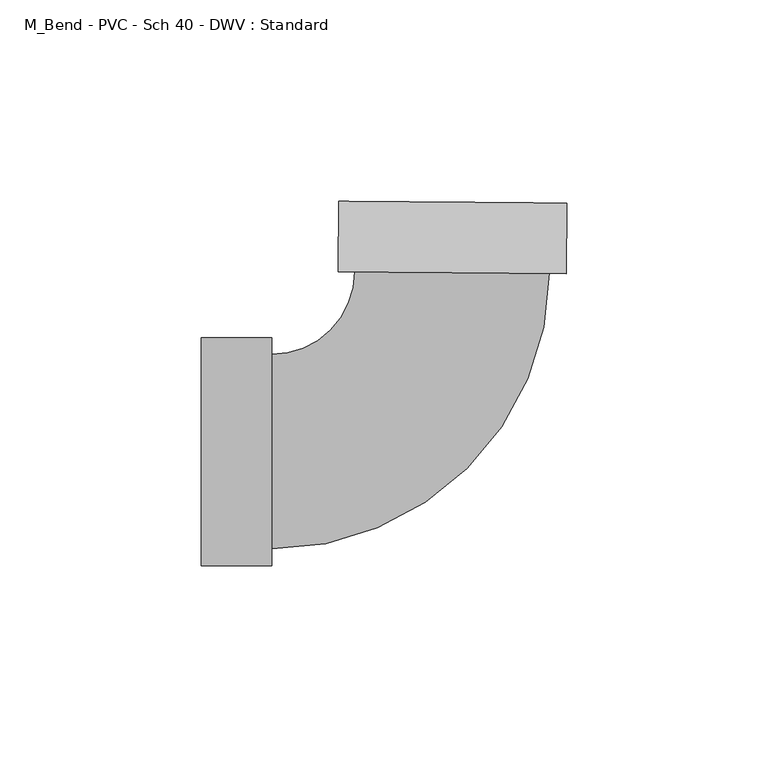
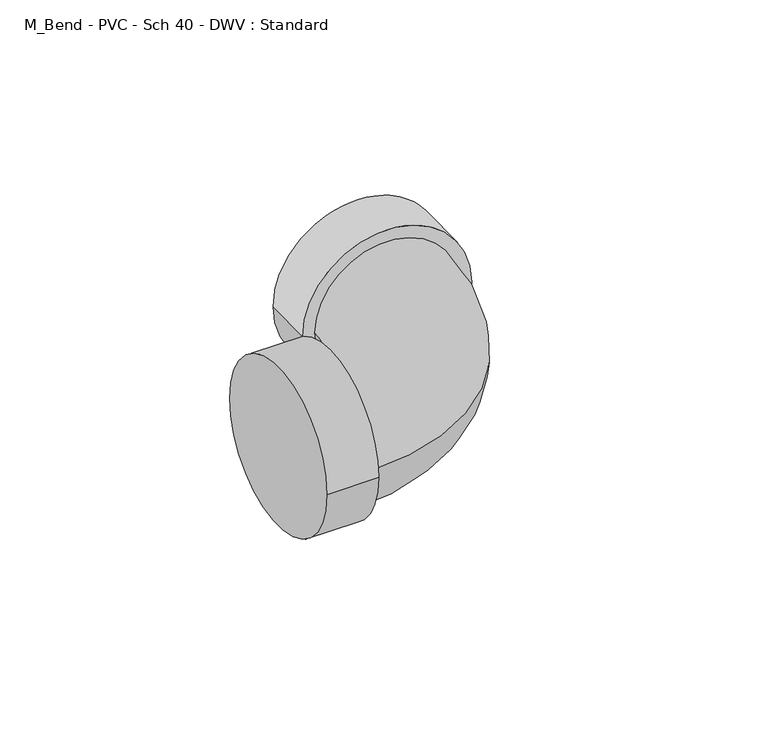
"""IFC4 building model written with IfcOpenShell, lengths in millimetres: pipe fitting geometry, M_Bend - PVC - Sch 40 - DWV : Standard."""

from ifc_helpers import new_model, si_unit, point, frame, origin, place, context, project, spatial, circle_curve, ellipse_curve, trimmed, source, transform, mapped, element, save
from ifc_brep_helpers import plane_surface, cylinder_surface, revolved_surface, advanced_brep


def m_bend_pvc_sch_40_dwv_standard_aab78995(model_context):
    return source(origin(), model_context, "Body", "AdvancedBrep", [
        advanced_brep(
        [(-61.8998, -28.2829, 0.0), (-61.8998, 28.2829, 0.0), (-44.45, -28.2829, 0.0), (-44.45, 28.2829, 0.0), (-44.45, -24.13, 0.0), (-44.45, 24.13, 0.0), (-23.7768974, 44.6398763, 0.0), (24.4815864, 44.2573308, 0.0), (28.634356, 44.2244117, 0.0), (-27.9296669, 44.6727953, 0.0), (28.7726764, 61.6736635, 0.0), (-27.7913465, 62.1220471, 0.0)],
        [
            (0, 1, circle_curve(frame((-61.8998, 0.0, 0.0), z_axis=(-1.0, 0.0, 0.0), x_axis=(0.0, 1.0, 0.0)), 28.2829)),
            (1, 0, circle_curve(frame((-61.8998, 0.0, 0.0), z_axis=(-1.0, 0.0, 0.0), x_axis=(0.0, 1.0, 0.0)), 28.2829)),
            (2, 3, circle_curve(frame((-44.45, 0.0, 0.0), z_axis=(1.0, 0.0, 0.0), x_axis=(0.0, 1.0, 0.0)), 28.2829)),
            (3, 2, circle_curve(frame((-44.45, 0.0, 0.0), z_axis=(1.0, 0.0, 0.0), x_axis=(0.0, 1.0, 0.0)), 28.2829)),
            (4, 5, circle_curve(frame((-44.45, 0.0, 0.0), z_axis=(-1.0, 0.0, 0.0), x_axis=(0.0, 1.0, 0.0)), 24.13)),
            (5, 4, circle_curve(frame((-44.45, 0.0, 0.0), z_axis=(-1.0, 0.0, 0.0), x_axis=(0.0, 1.0, 0.0)), 24.13)),
            (0, 2),
            (3, 1),
            (6, 5, circle_curve(frame((-44.45, 44.8037521, 0.0), z_axis=(0.0, 0.0, -1.0), x_axis=(0.0, -1.0, 0.0)), 20.6737521)),
            (4, 7, circle_curve(frame((-44.45, 44.8037521, 0.0), z_axis=(0.0, 0.0, 1.0), x_axis=(0.0, -1.0, 0.0)), 68.9337521)),
            (7, 6, circle_curve(frame((0.3523445, 44.4486035, 0.0), z_axis=(-0.007926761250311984, -0.9999685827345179, 0.0), x_axis=(-0.9999685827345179, 0.007926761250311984, 0.0)), 24.13)),
            (6, 7, circle_curve(frame((0.3523445, 44.4486035, 0.0), z_axis=(-0.007926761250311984, -0.9999685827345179, 0.0), x_axis=(-0.9999685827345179, 0.007926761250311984, 0.0)), 24.13)),
            (8, 9, circle_curve(frame((0.3523445, 44.4486035, 0.0), z_axis=(-0.007926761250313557, -0.999968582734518, 0.0), x_axis=(-0.999968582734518, 0.007926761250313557, 0.0)), 28.2829)),
            (9, 8, circle_curve(frame((0.3523445, 44.4486035, 0.0), z_axis=(-0.007926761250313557, -0.999968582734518, 0.0), x_axis=(-0.999968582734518, 0.007926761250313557, 0.0)), 28.2829)),
            (10, 11, circle_curve(frame((0.4906649, 61.8978553, 0.0), z_axis=(0.007926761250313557, 0.999968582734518, 0.0), x_axis=(-0.999968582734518, 0.007926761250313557, 0.0)), 28.2829)),
            (11, 10, circle_curve(frame((0.4906649, 61.8978553, 0.0), z_axis=(0.007926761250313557, 0.999968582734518, 0.0), x_axis=(-0.999968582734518, 0.007926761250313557, 0.0)), 28.2829)),
            (8, 10),
            (11, 9),
        ],
        [
            plane_surface(frame((-61.8998, 0.0, 0.0), z_axis=(-1.0, 0.0, 0.0), x_axis=(0.0, 0.0, 1.0))),
            plane_surface(frame((-44.45, 0.0, 0.0), z_axis=(1.0, 0.0, 0.0), x_axis=(0.0, 0.0, 1.0))),
            cylinder_surface(frame((-61.8998, 0.0, 0.0), z_axis=(-1.0, 0.0, 0.0), x_axis=(0.0, 1.0, 0.0)), 28.2829),
            revolved_surface(trimmed(ellipse_curve(frame((-44.45, 0.0, 0.0), z_axis=(-1.0, 0.0, 0.0), x_axis=(0.0, 1.0, 0.0)), 24.13, 24.13), [point((-44.45, -24.13, 0.0))], [point((-44.45, 24.13, 0.0))], True, "CARTESIAN"), (-44.45, 44.8037521, 0.0), (0.0, 0.0, 1.0)),
            revolved_surface(trimmed(ellipse_curve(frame((-44.45, 0.0, 0.0), z_axis=(-1.0, 0.0, 0.0), x_axis=(0.0, 1.0, 0.0)), 24.13, 24.13), [point((-44.45, 24.13, 0.0))], [point((-44.45, -24.13, 0.0))], True, "CARTESIAN"), (-44.45, 44.8037521, 0.0), (0.0, 0.0, 1.0)),
            plane_surface(frame((0.3523445, 44.4486035, 0.0), z_axis=(-0.007926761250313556, -0.999968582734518, 0.0), x_axis=(0.0, 0.0, 1.0))),
            plane_surface(frame((0.4906649, 61.8978553, 0.0), z_axis=(0.007926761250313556, 0.999968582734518, 0.0), x_axis=(0.0, 0.0, 1.0))),
            cylinder_surface(frame((0.3523445, 44.4486035, 0.0), z_axis=(-0.007926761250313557, -0.999968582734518, 0.0), x_axis=(-0.999968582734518, 0.007926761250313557, 0.0)), 28.2829),
        ],
        [
            (0, [[1, 2]]),
            (1, [[3, 4], [5, 6]]),
            (2, [[-1, 7, -4, 8]]),
            (2, [[-2, -8, -3, -7]]),
            (3, [[9, -5, 10, 11]]),
            (4, [[-9, 12, -10, -6]]),
            (5, [[13, 14], [-11, -12]]),
            (6, [[15, 16]]),
            (7, [[-13, 17, -16, 18]]),
            (7, [[-14, -18, -15, -17]]),
        ],
    ),
    ])


if __name__ == "__main__":
    model = new_model("IFC4")
    model_context = context("Model", 3, world=origin())
    ifc_project = project(units=[si_unit("LENGTHUNIT", "METRE", prefix="MILLI")], contexts=[model_context])
    site = spatial("IfcSite", under=ifc_project)
    building = spatial("IfcBuilding", under=site)
    placement = place(None, origin())
    m_bend_pvc_sch_40_dwv_standard_shape = m_bend_pvc_sch_40_dwv_standard_aab78995(model_context)
    element("IfcPipeFitting", 1, ObjectType="M_Bend - PVC - Sch 40 - DWV : Standard", at=placement, inside=building, context=model_context, shape_type="MappedRepresentation", body=[
        mapped(m_bend_pvc_sch_40_dwv_standard_shape, transform((0.0, 0.0, 0.0), x_axis=(1.0, 0.0, 0.0), y_axis=(0.0, 1.0, 0.0), z_axis=(0.0, 0.0, 1.0))),
    ])
    save(model, "model.ifc")
